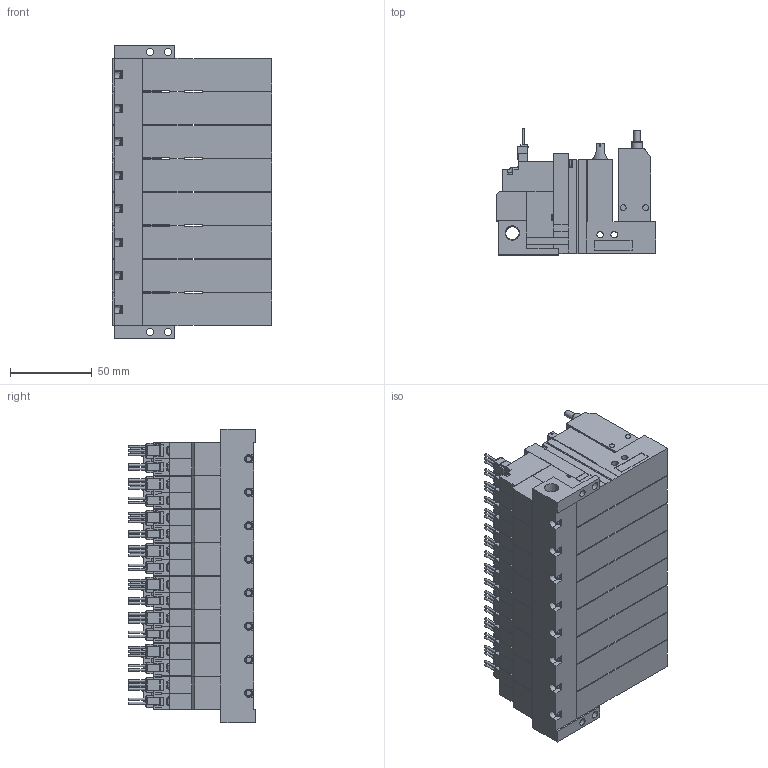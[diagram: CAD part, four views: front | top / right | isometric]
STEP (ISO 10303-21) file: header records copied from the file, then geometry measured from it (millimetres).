
FILE_DESCRIPTION(('STEP AP203'),'1');
FILE_NAME('ABS_ABPLC5WLR808.stp','2025-02-25T05:11:44',(' '),(' '),'Spatial InterOp 3D',' ',' ');
FILE_SCHEMA(('CONFIG_CONTROL_DESIGN'));
Length unit declared in the file: millimetre
Products named in the file (5): BMC22M※※※※ABS_ABPLC5WLR808; Solenoid valve W; Pressure sensor ABSLC; Unit LC; Base MR80R
Assembly tree (25 placements, depth 2):
  BMC22M※※※※ABS_ABPLC5WLR808
    Solenoid valve W  x8
    Pressure sensor ABSLC  x8
    Unit LC  x8
    Base MR80R
Bounding box: 97.6 x 77.45 x 179.5 mm (x, y, z)
Volume: 818422 mm3; surface area: 213999.4 mm2
Topology: 25 solids, 25 shells, 3157 faces, 8459 edges, 5560 vertices
Faces by surface type: plane 2686, cylinder 365, cone 58, torus 48
Full cylindrical faces by diameter (mm): 1.4 x40, 2.5 x8, 3 x32, 3.5 x48, 3.6 x8, 4 x24, 4.134 x8, 4.5 x4, 5.2 x8, 6 x8, 6.5 x8, 6.6 x8, 8.279 x1
Entity records: 16216 total; most frequent: CARTESIAN_POINT 3173, DIRECTION 2590, ORIENTED_EDGE 2478, EDGE_CURVE 1239, LINE 976, VECTOR 976, VERTEX_POINT 874, AXIS2_PLACEMENT_3D 807
